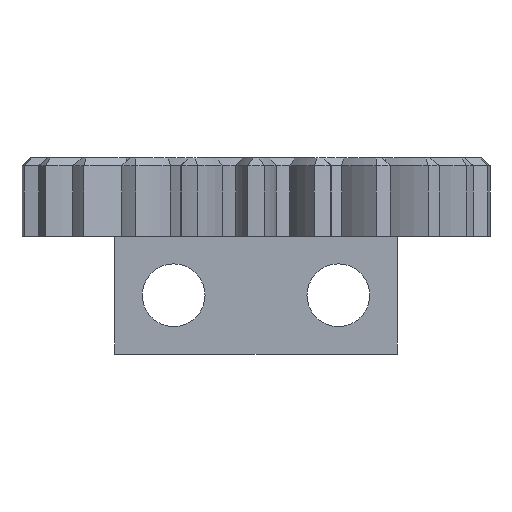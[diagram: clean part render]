
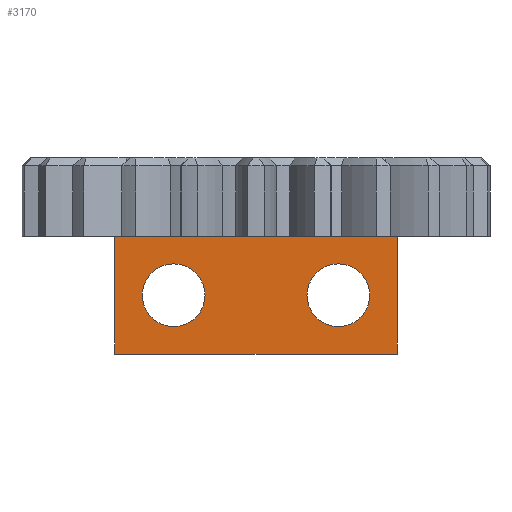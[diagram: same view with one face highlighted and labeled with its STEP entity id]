
A CAD part, front view. The second image highlights one B-rep face of the part: STEP entity #3170.
In plain terms, the highlighted planar face has unit normal (0, -1, 0).
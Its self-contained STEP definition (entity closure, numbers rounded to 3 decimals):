
#23=FACE_BOUND('',#739,.T.);
#24=FACE_BOUND('',#740,.T.);
#37=PLANE('',#3668);
#108=LINE('',#5923,#234);
#113=LINE('',#5941,#239);
#120=LINE('',#5954,#246);
#121=LINE('',#5956,#247);
#234=VECTOR('',#4623,10.);
#239=VECTOR('',#4642,10.);
#246=VECTOR('',#4655,10.);
#247=VECTOR('',#4658,10.);
#534=FACE_OUTER_BOUND('',#738,.T.);
#738=EDGE_LOOP('',(#2743,#2744,#2745,#2746));
#739=EDGE_LOOP('',(#2747));
#740=EDGE_LOOP('',(#2748));
#1150=CIRCLE('',#3660,1.6);
#1152=CIRCLE('',#3663,1.6);
#1441=VERTEX_POINT('',#5920);
#1442=VERTEX_POINT('',#5922);
#1445=VERTEX_POINT('',#5930);
#1447=VERTEX_POINT('',#5936);
#1448=VERTEX_POINT('',#5940);
#1451=VERTEX_POINT('',#5952);
#1884=EDGE_CURVE('',#1441,#1442,#108,.T.);
#1889=EDGE_CURVE('',#1445,#1445,#1150,.T.);
#1892=EDGE_CURVE('',#1447,#1447,#1152,.T.);
#1893=EDGE_CURVE('',#1442,#1448,#113,.T.);
#1900=EDGE_CURVE('',#1441,#1451,#120,.T.);
#1901=EDGE_CURVE('',#1448,#1451,#121,.T.);
#2743=ORIENTED_EDGE('',*,*,#1884,.F.);
#2744=ORIENTED_EDGE('',*,*,#1900,.T.);
#2745=ORIENTED_EDGE('',*,*,#1901,.F.);
#2746=ORIENTED_EDGE('',*,*,#1893,.F.);
#2747=ORIENTED_EDGE('',*,*,#1889,.T.);
#2748=ORIENTED_EDGE('',*,*,#1892,.T.);
#3170=ADVANCED_FACE('',(#534,#23,#24),#37,.T.);
#3660=AXIS2_PLACEMENT_3D('',#5932,#4631,#4632);
#3663=AXIS2_PLACEMENT_3D('',#5938,#4638,#4639);
#3668=AXIS2_PLACEMENT_3D('',#5955,#4656,#4657);
#4623=DIRECTION('',(1.,0.,0.));
#4631=DIRECTION('center_axis',(0.,1.,0.));
#4632=DIRECTION('ref_axis',(-1.,0.,0.));
#4638=DIRECTION('center_axis',(0.,1.,0.));
#4639=DIRECTION('ref_axis',(-1.,0.,0.));
#4642=DIRECTION('',(0.,0.,-1.));
#4655=DIRECTION('',(0.,0.,-1.));
#4656=DIRECTION('center_axis',(0.,-1.,0.));
#4657=DIRECTION('ref_axis',(-1.,0.,0.));
#4658=DIRECTION('',(-1.,0.,0.));
#5920=CARTESIAN_POINT('',(-7.2,-5.,0.));
#5922=CARTESIAN_POINT('',(7.2,-5.,0.));
#5923=CARTESIAN_POINT('',(3.6,-5.,0.));
#5930=CARTESIAN_POINT('',(5.8,-5.,-3.));
#5932=CARTESIAN_POINT('Origin',(4.2,-5.,-3.));
#5936=CARTESIAN_POINT('',(-2.6,-5.,-3.));
#5938=CARTESIAN_POINT('Origin',(-4.2,-5.,-3.));
#5940=CARTESIAN_POINT('',(7.2,-5.,-6.));
#5941=CARTESIAN_POINT('',(7.2,-5.,0.));
#5952=CARTESIAN_POINT('',(-7.2,-5.,-6.));
#5954=CARTESIAN_POINT('',(-7.2,-5.,0.));
#5955=CARTESIAN_POINT('Origin',(7.2,-5.,0.));
#5956=CARTESIAN_POINT('',(-7.2,-5.,-6.));
